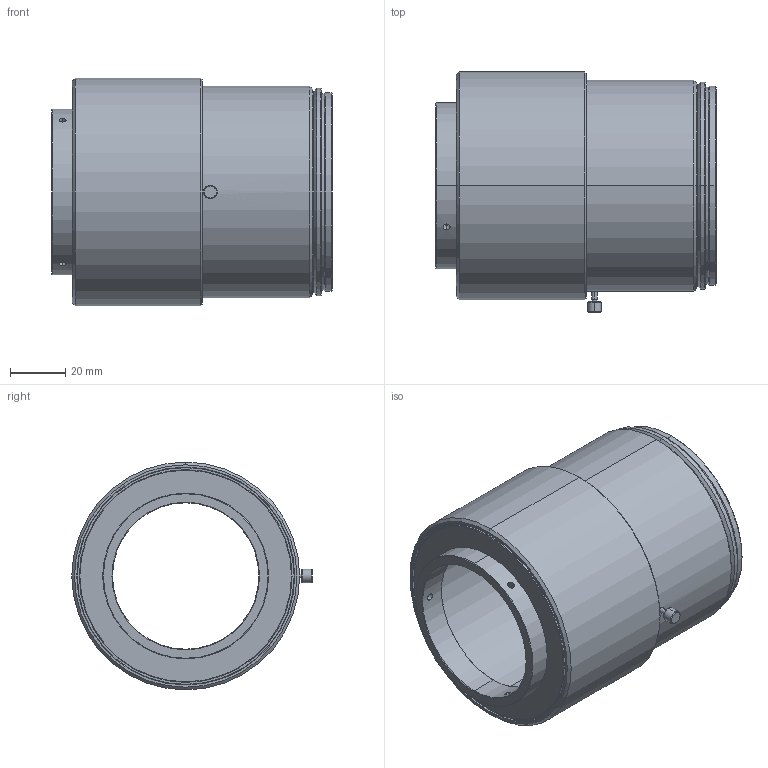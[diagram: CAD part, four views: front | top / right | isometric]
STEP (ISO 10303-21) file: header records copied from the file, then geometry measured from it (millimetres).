
FILE_DESCRIPTION (( 'STEP AP203' ), '1' );
FILE_NAME ('VS-FR32-53V_M72.STEP', '2017-01-05T00:36:51', ( '' ), ( '' ), 'SwSTEP 2.0', 'SolidWorks 2017', '' );
FILE_SCHEMA (( 'CONFIG_CONTROL_DESIGN' ));
Length unit declared in the file: millimetre
Products named in the file (1): VS-FR32-53V_M72
Bounding box: 101.7 x 87.05 x 82.5 mm (x, y, z)
Volume: 134840.5 mm3; surface area: 54473 mm2
Topology: 1 solids, 1 shells, 98 faces, 202 edges, 120 vertices
Faces by surface type: cylinder 42, cone 40, plane 16
Entity records: 2905 total; most frequent: CARTESIAN_POINT 681, DIRECTION 492, ORIENTED_EDGE 404, AXIS2_PLACEMENT_3D 205, EDGE_CURVE 202, VERTEX_POINT 120, EDGE_LOOP 120, CIRCLE 106
